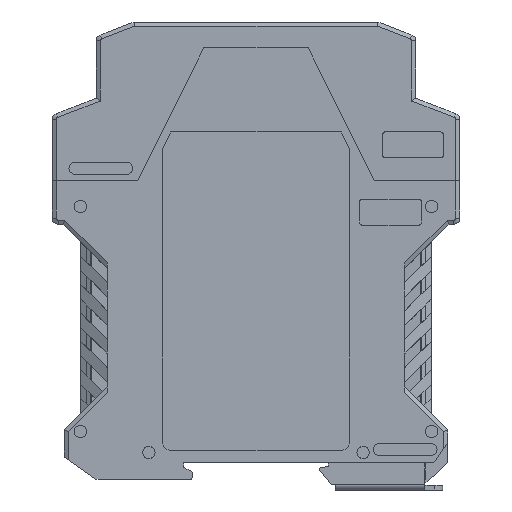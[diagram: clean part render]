
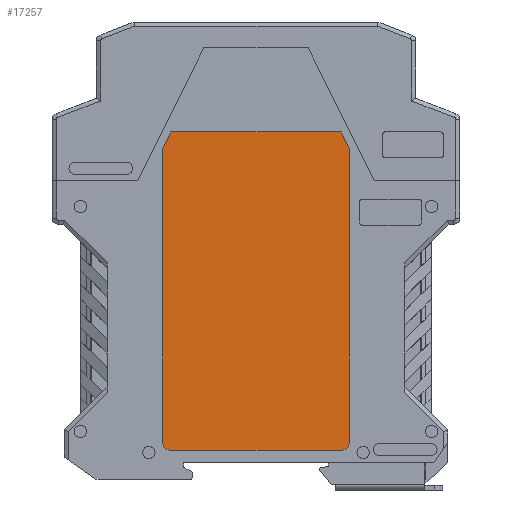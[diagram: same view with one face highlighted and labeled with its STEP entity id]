
A CAD part, front view. The second image highlights one B-rep face of the part: STEP entity #17257.
In plain terms, the highlighted planar face has unit normal (0, -1, 0).
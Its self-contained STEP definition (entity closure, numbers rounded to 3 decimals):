
#17257=ADVANCED_FACE('',(#45231),#45233,.T.);
#45231=FACE_BOUND('',#45232,.T.);
#45232=EDGE_LOOP('',(#67927,#67928,#67929,#67930,#67931,#67932,#67933,#67934));
#45233=PLANE('',#45234);
#45234=AXIS2_PLACEMENT_3D('',#45235,#45236,#45237);
#45235=CARTESIAN_POINT('',(0.,0.2,103.85));
#45236=DIRECTION('',(0.,-1.,0.));
#45237=DIRECTION('',(0.,0.,-1.));
#67927=ORIENTED_EDGE('',*,*,#82670,.T.);
#67928=ORIENTED_EDGE('',*,*,#82671,.F.);
#67929=ORIENTED_EDGE('',*,*,#82672,.T.);
#67930=ORIENTED_EDGE('',*,*,#82669,.F.);
#67931=ORIENTED_EDGE('',*,*,#82673,.T.);
#67932=ORIENTED_EDGE('',*,*,#82674,.F.);
#67933=ORIENTED_EDGE('',*,*,#82675,.T.);
#67934=ORIENTED_EDGE('',*,*,#82676,.F.);
#82669=EDGE_CURVE('',#95472,#95470,#95474,.T.);
#82670=EDGE_CURVE('',#95475,#95476,#95477,.T.);
#82671=EDGE_CURVE('',#95478,#95476,#95479,.T.);
#82672=EDGE_CURVE('',#95478,#95470,#95480,.T.);
#82673=EDGE_CURVE('',#95472,#95481,#95482,.T.);
#82674=EDGE_CURVE('',#95483,#95481,#95484,.T.);
#82675=EDGE_CURVE('',#95483,#95485,#95486,.T.);
#82676=EDGE_CURVE('',#95475,#95485,#95487,.T.);
#95470=VERTEX_POINT('',#122043);
#95472=VERTEX_POINT('',#122047);
#95474=LINE('',#122051,#122052);
#95475=VERTEX_POINT('',#122054);
#95476=VERTEX_POINT('',#122055);
#95477=LINE('',#122056,#122057);
#95478=VERTEX_POINT('',#122059);
#95479=LINE('',#122060,#122061);
#95480=LINE('',#122063,#122064);
#95481=VERTEX_POINT('',#122066);
#95482=CIRCLE('',#122067,2.);
#95483=VERTEX_POINT('',#122071);
#95484=LINE('',#122072,#122073);
#95485=VERTEX_POINT('',#122075);
#95486=CIRCLE('',#122076,2.);
#95487=LINE('',#122080,#122081);
#122043=CARTESIAN_POINT('',(-22.65,0.2,76.3));
#122047=CARTESIAN_POINT('',(-22.65,0.2,5.));
#122051=CARTESIAN_POINT('',(-22.65,0.2,5.));
#122052=VECTOR('',#122053,1.);
#122053=DIRECTION('',(0.,0.,1.));
#122054=CARTESIAN_POINT('',(22.65,0.2,76.3));
#122055=CARTESIAN_POINT('',(20.65,0.2,80.3));
#122056=CARTESIAN_POINT('',(22.65,0.2,76.3));
#122057=VECTOR('',#122058,1.);
#122058=DIRECTION('',(-0.447,0.,0.894));
#122059=CARTESIAN_POINT('',(-20.65,0.2,80.3));
#122060=CARTESIAN_POINT('',(-20.65,0.2,80.3));
#122061=VECTOR('',#122062,1.);
#122062=DIRECTION('',(1.,0.,0.));
#122063=CARTESIAN_POINT('',(-20.65,0.2,80.3));
#122064=VECTOR('',#122065,1.);
#122065=DIRECTION('',(-0.447,0.,-0.894));
#122066=CARTESIAN_POINT('',(-20.65,0.2,3.));
#122067=AXIS2_PLACEMENT_3D('',#122068,#122069,#122070);
#122068=CARTESIAN_POINT('',(-20.65,0.2,5.));
#122069=DIRECTION('',(0.,-1.,0.));
#122070=DIRECTION('',(-1.,0.,0.));
#122071=CARTESIAN_POINT('',(20.65,0.2,3.));
#122072=CARTESIAN_POINT('',(20.65,0.2,3.));
#122073=VECTOR('',#122074,1.);
#122074=DIRECTION('',(-1.,0.,0.));
#122075=CARTESIAN_POINT('',(22.65,0.2,5.));
#122076=AXIS2_PLACEMENT_3D('',#122077,#122078,#122079);
#122077=CARTESIAN_POINT('',(20.65,0.2,5.));
#122078=DIRECTION('',(0.,-1.,0.));
#122079=DIRECTION('',(0.,0.,-1.));
#122080=CARTESIAN_POINT('',(22.65,0.2,76.3));
#122081=VECTOR('',#122082,1.);
#122082=DIRECTION('',(0.,0.,-1.));
